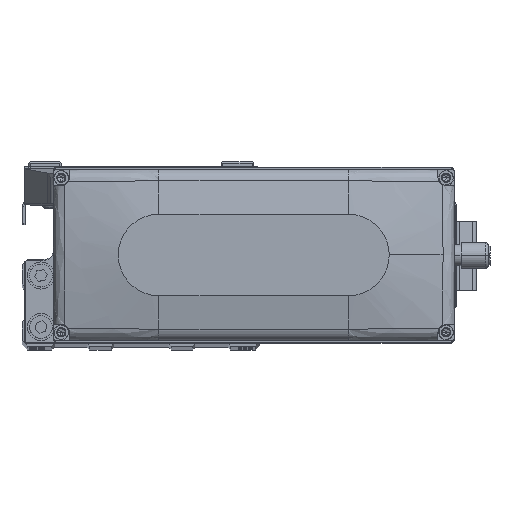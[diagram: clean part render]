
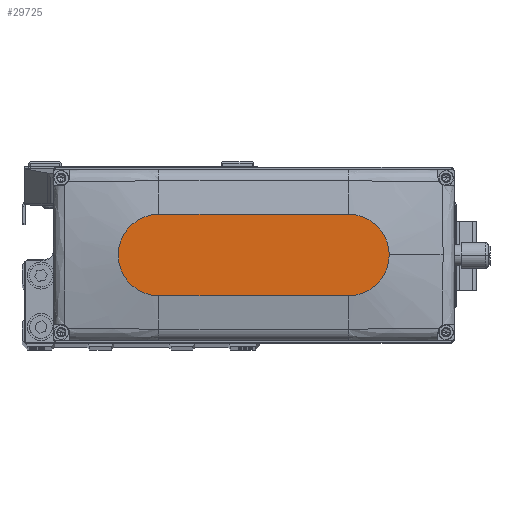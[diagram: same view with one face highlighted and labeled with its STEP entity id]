
A CAD part, top view. The second image highlights one B-rep face of the part: STEP entity #29725.
In plain terms, the highlighted planar face has unit normal (0, 0, 1).
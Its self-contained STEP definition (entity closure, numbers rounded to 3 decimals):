
#612 = DIRECTION ( 'NONE',  ( 0., 0., 1. ) ) ;
#2181 = EDGE_CURVE ( 'NONE', #43348, #8386, #37525, .T. ) ;
#2568 = CARTESIAN_POINT ( 'NONE',  ( 50., 0., 35. ) ) ;
#3020 = ORIENTED_EDGE ( 'NONE', *, *, #9163, .T. ) ;
#3407 = CARTESIAN_POINT ( 'NONE',  ( -35., 15., 35. ) ) ;
#3464 = CIRCLE ( 'NONE', #31380, 15. ) ;
#4958 = DIRECTION ( 'NONE',  ( -1., 0., 0. ) ) ;
#7537 = DIRECTION ( 'NONE',  ( 1., 0., 0. ) ) ;
#8030 = DIRECTION ( 'NONE',  ( 0., 0., 1. ) ) ;
#8386 = VERTEX_POINT ( 'NONE', #2568 ) ;
#8500 = ORIENTED_EDGE ( 'NONE', *, *, #2181, .T. ) ;
#8771 = AXIS2_PLACEMENT_3D ( 'NONE', #43583, #9387, #24659 ) ;
#9163 = EDGE_CURVE ( 'NONE', #8386, #20902, #3464, .T. ) ;
#9387 = DIRECTION ( 'NONE',  ( 0., 0., 1. ) ) ;
#10930 = EDGE_LOOP ( 'NONE', ( #44577, #20190, #46514, #8500, #3020 ) ) ;
#11612 = CARTESIAN_POINT ( 'NONE',  ( 35., 0., 35. ) ) ;
#13159 = FACE_OUTER_BOUND ( 'NONE', #10930, .T. ) ;
#13439 = CARTESIAN_POINT ( 'NONE',  ( 35., 15., 35. ) ) ;
#15818 = DIRECTION ( 'NONE',  ( 1., 0., 0. ) ) ;
#18160 = VERTEX_POINT ( 'NONE', #3407 ) ;
#20190 = ORIENTED_EDGE ( 'NONE', *, *, #38874, .T. ) ;
#20902 = VERTEX_POINT ( 'NONE', #13439 ) ;
#21374 = VECTOR ( 'NONE', #7537, 1000. ) ;
#23311 = DIRECTION ( 'NONE',  ( 1., 0., 0. ) ) ;
#23791 = CARTESIAN_POINT ( 'NONE',  ( 35., -15., 35. ) ) ;
#23928 = LINE ( 'NONE', #39107, #47912 ) ;
#24659 = DIRECTION ( 'NONE',  ( 1., 0., 0. ) ) ;
#26070 = EDGE_CURVE ( 'NONE', #35626, #43348, #26557, .T. ) ;
#26557 = LINE ( 'NONE', #41728, #21374 ) ;
#26877 = DIRECTION ( 'NONE',  ( 0., 0., 1. ) ) ;
#28420 = PLANE ( 'NONE',  #8771 ) ;
#29725 = ADVANCED_FACE ( 'NONE', ( #13159 ), #28420, .T. ) ;
#31380 = AXIS2_PLACEMENT_3D ( 'NONE', #11612, #26877, #42038 ) ;
#33141 = CARTESIAN_POINT ( 'NONE',  ( -35., -15., 35. ) ) ;
#34215 = CIRCLE ( 'NONE', #40530, 15. ) ;
#34816 = CARTESIAN_POINT ( 'NONE',  ( 35., 0., 35. ) ) ;
#35473 = EDGE_CURVE ( 'NONE', #20902, #18160, #23928, .T. ) ;
#35626 = VERTEX_POINT ( 'NONE', #33141 ) ;
#37525 = CIRCLE ( 'NONE', #39002, 15. ) ;
#38874 = EDGE_CURVE ( 'NONE', #18160, #35626, #34215, .T. ) ;
#39002 = AXIS2_PLACEMENT_3D ( 'NONE', #34816, #612, #15818 ) ;
#39107 = CARTESIAN_POINT ( 'NONE',  ( -35., 15., 35. ) ) ;
#40530 = AXIS2_PLACEMENT_3D ( 'NONE', #42206, #8030, #23311 ) ;
#41728 = CARTESIAN_POINT ( 'NONE',  ( -35., -15., 35. ) ) ;
#42038 = DIRECTION ( 'NONE',  ( 1., 0., 0. ) ) ;
#42206 = CARTESIAN_POINT ( 'NONE',  ( -35., 0., 35. ) ) ;
#43348 = VERTEX_POINT ( 'NONE', #23791 ) ;
#43583 = CARTESIAN_POINT ( 'NONE',  ( 0., 0., 35. ) ) ;
#44577 = ORIENTED_EDGE ( 'NONE', *, *, #35473, .T. ) ;
#46514 = ORIENTED_EDGE ( 'NONE', *, *, #26070, .T. ) ;
#47912 = VECTOR ( 'NONE', #4958, 1000. ) ;
